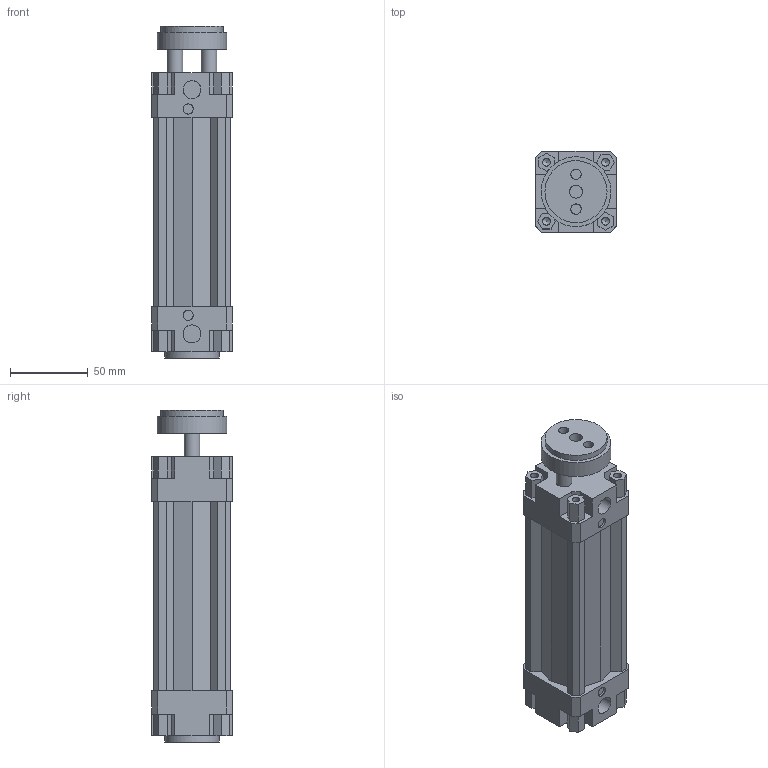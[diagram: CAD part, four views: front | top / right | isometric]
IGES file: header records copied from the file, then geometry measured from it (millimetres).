
Global section: file name: 132#_040_0075_01; native system: Autodesk Inventor 2014; preprocessor: unknown; author: A. Manieri; date: 20161006.154757; units: millimetre
Bounding box: 52 x 52 x 214 mm (x, y, z)
Volume: 320532.8 mm3; surface area: 92007.9 mm2
Topology: 2 solids, 2 shells, 180 faces, 492 edges, 336 vertices
Faces by surface type: bspline 180
